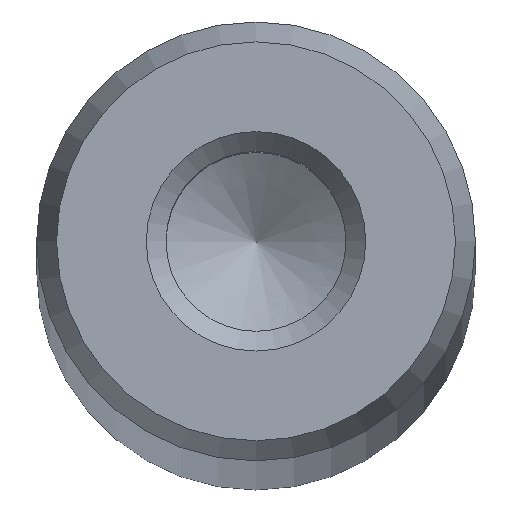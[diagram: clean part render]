
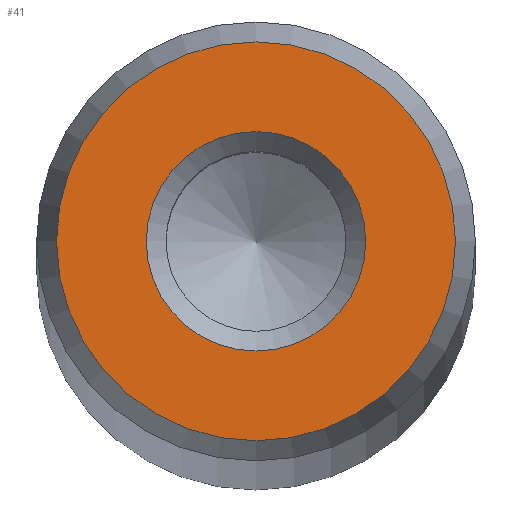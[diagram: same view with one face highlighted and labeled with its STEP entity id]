
A CAD part, top view. The second image highlights one B-rep face of the part: STEP entity #41.
In plain terms, the highlighted planar face has unit normal (0, 0, 1).
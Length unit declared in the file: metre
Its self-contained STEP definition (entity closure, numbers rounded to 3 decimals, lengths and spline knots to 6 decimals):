
#41 = ADVANCED_FACE( '', ( #88, #89 ), #90, .T. );
#88 = FACE_OUTER_BOUND( '', #147, .T. );
#89 = FACE_BOUND( '', #148, .T. );
#90 = PLANE( '', #149 );
#147 = EDGE_LOOP( '', ( #204 ) );
#148 = EDGE_LOOP( '', ( #205 ) );
#149 = AXIS2_PLACEMENT_3D( '', #206, #207, #208 );
#204 = ORIENTED_EDGE( '', *, *, #275, .T. );
#205 = ORIENTED_EDGE( '', *, *, #276, .T. );
#206 = CARTESIAN_POINT( '', ( 0., 0., 0.459 ) );
#207 = DIRECTION( '', ( 0., 0., 1. ) );
#208 = DIRECTION( '', ( 1., 0., 0. ) );
#275 = EDGE_CURVE( '', #305, #305, #306, .T. );
#276 = EDGE_CURVE( '', #307, #307, #308, .T. );
#305 = VERTEX_POINT( '', #342 );
#306 = CIRCLE( '', #343, 0.005454 );
#307 = VERTEX_POINT( '', #344 );
#308 = CIRCLE( '', #345, 0.003 );
#342 = CARTESIAN_POINT( '', ( 0.005454, 0., 0.459 ) );
#343 = AXIS2_PLACEMENT_3D( '', #379, #380, #381 );
#344 = CARTESIAN_POINT( '', ( 0.003, 0., 0.459 ) );
#345 = AXIS2_PLACEMENT_3D( '', #382, #383, #384 );
#379 = CARTESIAN_POINT( '', ( 0., 0., 0.459 ) );
#380 = DIRECTION( '', ( 0., 0., 1. ) );
#381 = DIRECTION( '', ( 1., 0., 0. ) );
#382 = CARTESIAN_POINT( '', ( 0., 0., 0.459 ) );
#383 = DIRECTION( '', ( 0., 0., -1. ) );
#384 = DIRECTION( '', ( 1., 0., 0. ) );
